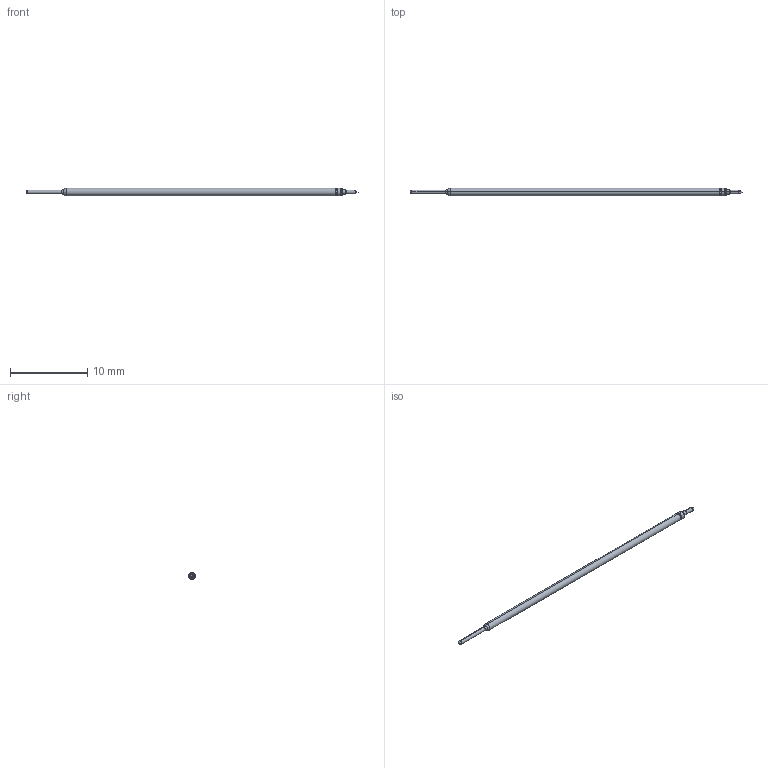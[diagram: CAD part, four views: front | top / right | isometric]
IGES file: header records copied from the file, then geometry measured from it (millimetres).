
Start section: SolidWorks IGES file using analytic representation for surfaces
Global section: file name: C:\Documents and Settings\mrumschlag\Desktop\changes\new\test\I8 FULL.IGS; native system: SolidWorks 2011; preprocessor: SolidWorks 2011; author: mrumschlag; date: 110630.142322; units: inch
Bounding box: 42.93 x 0.97 x 0.97 mm (x, y, z)
Surface area: 120.6 mm2 (no closed solid volume)
Topology: 0 solids, 0 shells, 39 faces, 206 edges, 204 vertices
Faces by surface type: bspline 21, revolution 18
